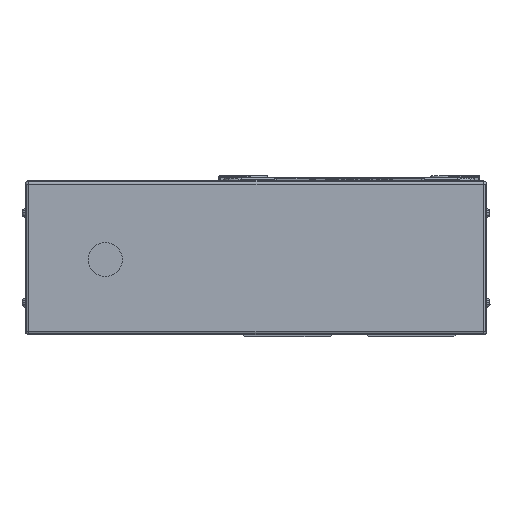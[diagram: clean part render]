
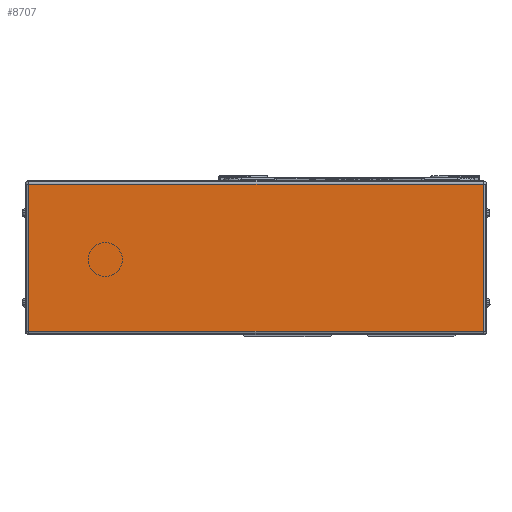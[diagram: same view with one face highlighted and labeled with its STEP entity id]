
A CAD part, left-side view. The second image highlights one B-rep face of the part: STEP entity #8707.
In plain terms, the highlighted planar face has unit normal (-1, 0, 0).
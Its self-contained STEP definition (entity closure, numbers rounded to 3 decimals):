
#8707=ADVANCED_FACE('',(#17738),#17739,.F.);
#17738=FACE_OUTER_BOUND('',#28293,.T.);
#17739=PLANE('',#28294);
#28293=EDGE_LOOP('',(#52964,#52965,#52966,#52967));
#28294=AXIS2_PLACEMENT_3D('',#52968,#52969,#52970);
#52964=ORIENTED_EDGE('',*,*,#58096,.T.);
#52965=ORIENTED_EDGE('',*,*,#65147,.T.);
#52966=ORIENTED_EDGE('',*,*,#63269,.T.);
#52967=ORIENTED_EDGE('',*,*,#56410,.T.);
#52968=CARTESIAN_POINT('',(-45.,180.5,0.));
#52969=DIRECTION('',(1.0,0.,0.));
#52970=DIRECTION('',(0.,0.,1.0));
#56410=EDGE_CURVE('',#67433,#67431,#67434,.T.);
#58096=EDGE_CURVE('',#67431,#70290,#70292,.T.);
#63269=EDGE_CURVE('',#77906,#67433,#77907,.T.);
#65147=EDGE_CURVE('',#70290,#77906,#80036,.T.);
#67431=VERTEX_POINT('',#83185);
#67433=VERTEX_POINT('',#83187);
#67434=LINE('',#83188,#83189);
#70290=VERTEX_POINT('',#87193);
#70292=LINE('',#87195,#87196);
#77906=VERTEX_POINT('',#98646);
#77907=LINE('',#98647,#98648);
#80036=LINE('',#101738,#101739);
#83185=CARTESIAN_POINT('',(-45.,178.5,41.));
#83187=CARTESIAN_POINT('',(-45.,-74.5,41.));
#83188=CARTESIAN_POINT('',(-45.,180.5,41.));
#83189=VECTOR('',#103686,10.0);
#87193=CARTESIAN_POINT('',(-45.,178.5,-41.));
#87195=CARTESIAN_POINT('',(-45.,178.5,0.));
#87196=VECTOR('',#106010,10.0);
#98646=CARTESIAN_POINT('',(-45.,-74.5,-41.));
#98647=CARTESIAN_POINT('',(-45.,-74.5,0.));
#98648=VECTOR('',#112822,10.0);
#101738=CARTESIAN_POINT('',(-45.,180.5,-41.));
#101739=VECTOR('',#114605,10.0);
#103686=DIRECTION('',(0.,1.0,0.));
#106010=DIRECTION('',(0.,0.,-1.0));
#112822=DIRECTION('',(0.,0.,1.0));
#114605=DIRECTION('',(0.,-1.0,0.));
